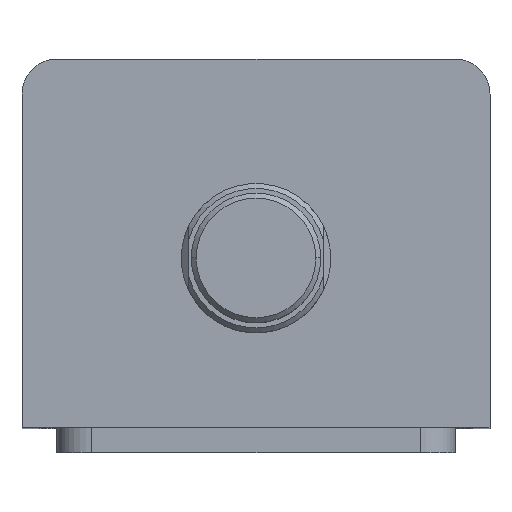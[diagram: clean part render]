
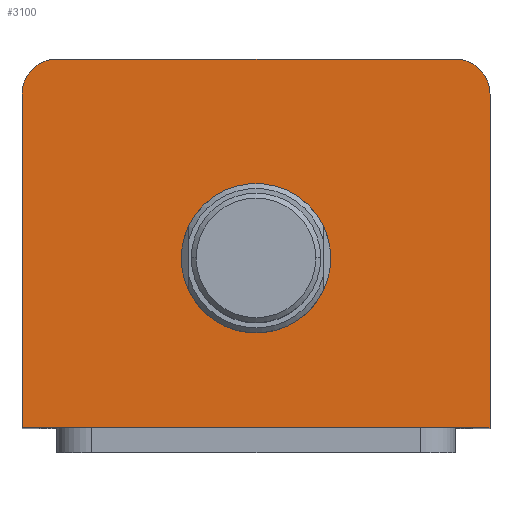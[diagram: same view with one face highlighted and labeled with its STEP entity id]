
A CAD part, top view. The second image highlights one B-rep face of the part: STEP entity #3100.
In plain terms, the highlighted planar face has unit normal (0, 0, 1).
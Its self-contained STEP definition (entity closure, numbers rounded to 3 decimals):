
#8 = ORIENTED_EDGE ( 'NONE', *, *, #2070, .T. ) ;
#9 = ORIENTED_EDGE ( 'NONE', *, *, #2085, .T. ) ;
#51 = VERTEX_POINT ( 'NONE', #1622 ) ;
#170 = LINE ( 'NONE', #1005, #173 ) ;
#173 = VECTOR ( 'NONE', #1000, 1000. ) ;
#179 = CIRCLE ( 'NONE', #2000, 7. ) ;
#187 = CIRCLE ( 'NONE', #1993, 7. ) ;
#201 = LINE ( 'NONE', #1230, #204 ) ;
#204 = VECTOR ( 'NONE', #1228, 1000. ) ;
#213 = CIRCLE ( 'NONE', #1987, 15. ) ;
#554 = ORIENTED_EDGE ( 'NONE', *, *, #2094, .T. ) ;
#555 = ORIENTED_EDGE ( 'NONE', *, *, #3021, .T. ) ;
#586 = ORIENTED_EDGE ( 'NONE', *, *, #2077, .T. ) ;
#588 = ORIENTED_EDGE ( 'NONE', *, *, #3036, .T. ) ;
#593 = CIRCLE ( 'NONE', #1392, 15. ) ;
#626 = LINE ( 'NONE', #2891, #633 ) ;
#633 = VECTOR ( 'NONE', #2736, 1000. ) ;
#660 = LINE ( 'NONE', #2834, #663 ) ;
#663 = VECTOR ( 'NONE', #2837, 1000. ) ;
#740 = FACE_BOUND ( 'NONE', #1803, .T. ) ;
#748 = FACE_OUTER_BOUND ( 'NONE', #1807, .T. ) ;
#932 = DIRECTION ( 'NONE',  ( 1., 0., 0. ) ) ;
#933 = DIRECTION ( 'NONE',  ( 0., 0., 1. ) ) ;
#934 = CARTESIAN_POINT ( 'NONE',  ( 40., 30., 120. ) ) ;
#1000 = DIRECTION ( 'NONE',  ( -1., 0., 0. ) ) ;
#1005 = CARTESIAN_POINT ( 'NONE',  ( -47., 37., 120. ) ) ;
#1185 = CARTESIAN_POINT ( 'NONE',  ( 47., 30., 120. ) ) ;
#1188 = DIRECTION ( 'NONE',  ( 1., 0., 0. ) ) ;
#1189 = DIRECTION ( 'NONE',  ( 0., 0., 1. ) ) ;
#1190 = CARTESIAN_POINT ( 'NONE',  ( 0., -3., 120. ) ) ;
#1197 = CARTESIAN_POINT ( 'NONE',  ( 15., -3., 120. ) ) ;
#1228 = DIRECTION ( 'NONE',  ( 0., -1., 0. ) ) ;
#1230 = CARTESIAN_POINT ( 'NONE',  ( -47., 37., 120. ) ) ;
#1243 = CARTESIAN_POINT ( 'NONE',  ( -47., -37., 120. ) ) ;
#1269 = CARTESIAN_POINT ( 'NONE',  ( 47., -37., 120. ) ) ;
#1274 = DIRECTION ( 'NONE',  ( 1., 0., 0. ) ) ;
#1275 = DIRECTION ( 'NONE',  ( 0., 0., 1. ) ) ;
#1276 = CARTESIAN_POINT ( 'NONE',  ( -40., 30., 120. ) ) ;
#1392 = AXIS2_PLACEMENT_3D ( 'NONE', #2821, #2819, #2774 ) ;
#1420 = CARTESIAN_POINT ( 'NONE',  ( -47., 30., 120. ) ) ;
#1456 = CARTESIAN_POINT ( 'NONE',  ( 40., 37., 120. ) ) ;
#1462 = CARTESIAN_POINT ( 'NONE',  ( -40., 37., 120. ) ) ;
#1622 = CARTESIAN_POINT ( 'NONE',  ( -15., -3., 120. ) ) ;
#1650 = AXIS2_PLACEMENT_3D ( 'NONE', #2651, #2638, #2632 ) ;
#1803 = EDGE_LOOP ( 'NONE', ( #2190, #2178 ) ) ;
#1807 = EDGE_LOOP ( 'NONE', ( #8, #9, #554, #555, #588, #586 ) ) ;
#1882 = VERTEX_POINT ( 'NONE', #1462 ) ;
#1888 = VERTEX_POINT ( 'NONE', #1456 ) ;
#1919 = VERTEX_POINT ( 'NONE', #1420 ) ;
#1936 = VERTEX_POINT ( 'NONE', #1269 ) ;
#1946 = VERTEX_POINT ( 'NONE', #1243 ) ;
#1967 = VERTEX_POINT ( 'NONE', #1197 ) ;
#1972 = VERTEX_POINT ( 'NONE', #1185 ) ;
#1987 = AXIS2_PLACEMENT_3D ( 'NONE', #1190, #1189, #1188 ) ;
#1993 = AXIS2_PLACEMENT_3D ( 'NONE', #1276, #1275, #1274 ) ;
#2000 = AXIS2_PLACEMENT_3D ( 'NONE', #934, #933, #932 ) ;
#2070 = EDGE_CURVE ( 'NONE', #1888, #1882, #170, .T. ) ;
#2077 = EDGE_CURVE ( 'NONE', #1972, #1888, #179, .T. ) ;
#2085 = EDGE_CURVE ( 'NONE', #1882, #1919, #187, .T. ) ;
#2094 = EDGE_CURVE ( 'NONE', #1919, #1946, #201, .T. ) ;
#2106 = EDGE_CURVE ( 'NONE', #1967, #51, #213, .T. ) ;
#2178 = ORIENTED_EDGE ( 'NONE', *, *, #2998, .F. ) ;
#2190 = ORIENTED_EDGE ( 'NONE', *, *, #2106, .F. ) ;
#2632 = DIRECTION ( 'NONE',  ( 1., 0., 0. ) ) ;
#2638 = DIRECTION ( 'NONE',  ( 0., 0., 1. ) ) ;
#2639 = PLANE ( 'NONE',  #1650 ) ;
#2651 = CARTESIAN_POINT ( 'NONE',  ( 0., 0., 120. ) ) ;
#2736 = DIRECTION ( 'NONE',  ( 1., 0., 0. ) ) ;
#2774 = DIRECTION ( 'NONE',  ( 1., 0., 0. ) ) ;
#2819 = DIRECTION ( 'NONE',  ( 0., 0., 1. ) ) ;
#2821 = CARTESIAN_POINT ( 'NONE',  ( 0., -3., 120. ) ) ;
#2834 = CARTESIAN_POINT ( 'NONE',  ( 47., 37., 120. ) ) ;
#2837 = DIRECTION ( 'NONE',  ( 0., 1., 0. ) ) ;
#2891 = CARTESIAN_POINT ( 'NONE',  ( -47., -37., 120. ) ) ;
#2998 = EDGE_CURVE ( 'NONE', #51, #1967, #593, .T. ) ;
#3021 = EDGE_CURVE ( 'NONE', #1946, #1936, #626, .T. ) ;
#3036 = EDGE_CURVE ( 'NONE', #1936, #1972, #660, .T. ) ;
#3100 = ADVANCED_FACE ( 'NONE', ( #740, #748 ), #2639, .T. ) ;
